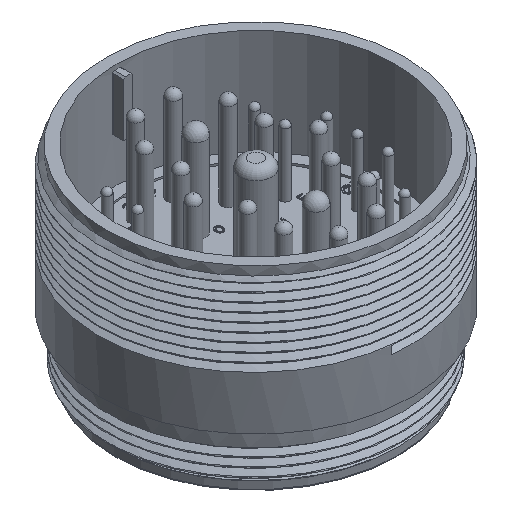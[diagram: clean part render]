
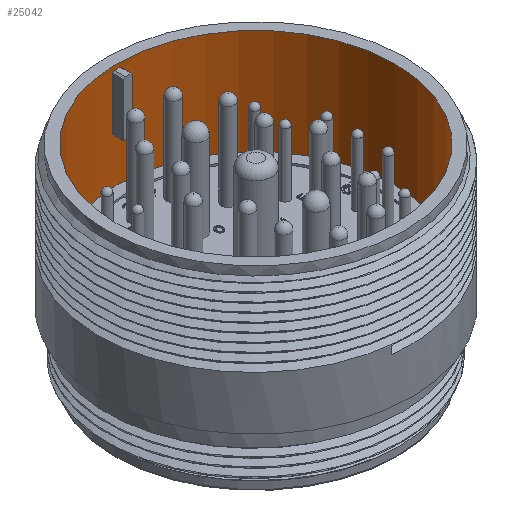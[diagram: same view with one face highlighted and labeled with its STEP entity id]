
A CAD part, isometric view. The second image highlights one B-rep face of the part: STEP entity #25042.
In plain terms, the highlighted cylindrical face has radius 25.34 mm (diameter 50.68 mm), a full revolution.
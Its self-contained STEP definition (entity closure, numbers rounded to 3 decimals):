
#410 = CARTESIAN_POINT ( 'NONE',  ( 0.525, 25.335, -0.8 ) ) ;
#3067 = VERTEX_POINT ( 'NONE', #50259 ) ;
#4799 = AXIS2_PLACEMENT_3D ( 'NONE', #45327, #32895, #32375 ) ;
#5628 = CARTESIAN_POINT ( 'NONE',  ( 0.929, 25.323, 22.455 ) ) ;
#5750 = ORIENTED_EDGE ( 'NONE', *, *, #9953, .T. ) ;
#5782 = CARTESIAN_POINT ( 'NONE',  ( 0., 0., -19.18 ) ) ;
#7806 = CIRCLE ( 'NONE', #52864, 25.34 ) ;
#8177 = CARTESIAN_POINT ( 'NONE',  ( 0., 0., -10.8 ) ) ;
#9026 = CARTESIAN_POINT ( 'NONE',  ( -0.525, 25.335, -0.8 ) ) ;
#9321 = EDGE_LOOP ( 'NONE', ( #57708, #57931, #50783, #31379, #33815, #25535 ) ) ;
#9953 = EDGE_CURVE ( 'NONE', #65798, #65798, #25247, .T. ) ;
#10475 = CARTESIAN_POINT ( 'NONE',  ( -0.525, 25.335, -0.8 ) ) ;
#14609 = CARTESIAN_POINT ( 'NONE',  ( -0.929, 25.323, -1.204 ) ) ;
#16835 = LINE ( 'NONE', #5628, #33873 ) ;
#18004 = EDGE_CURVE ( 'NONE', #74257, #77186, #7806, .T. ) ;
#22920 = EDGE_CURVE ( 'NONE', #63780, #3067, #71121, .T. ) ;
#25042 = ADVANCED_FACE ( 'NONE', ( #56858, #58729, #66275 ), #43655, .F. ) ;
#25247 = CIRCLE ( 'NONE', #52654, 25.34 ) ;
#25404 =( BOUNDED_CURVE ( )  B_SPLINE_CURVE ( 3, ( #410, #42687, #65933, #71982 ),
 .UNSPECIFIED., .F., .F. ) 
 B_SPLINE_CURVE_WITH_KNOTS ( ( 4, 4 ),
 ( 1.592, 1.607 ),
 .UNSPECIFIED. ) 
 CURVE ( )  GEOMETRIC_REPRESENTATION_ITEM ( )  RATIONAL_B_SPLINE_CURVE ( ( 1., 1., 1., 1. ) ) 
 REPRESENTATION_ITEM ( '' )  );
#25535 = ORIENTED_EDGE ( 'NONE', *, *, #22920, .T. ) ;
#26256 = CARTESIAN_POINT ( 'NONE',  ( -0.929, 25.323, -1.204 ) ) ;
#27542 = CARTESIAN_POINT ( 'NONE',  ( 0., 0., -0.8 ) ) ;
#28266 = CARTESIAN_POINT ( 'NONE',  ( 0.929, 25.323, -10.8 ) ) ;
#29751 = EDGE_LOOP ( 'NONE', ( #5750 ) ) ;
#31379 = ORIENTED_EDGE ( 'NONE', *, *, #74784, .T. ) ;
#32375 = DIRECTION ( 'NONE',  ( 1., 0., 0. ) ) ;
#32895 = DIRECTION ( 'NONE',  ( 0., 0., 1. ) ) ;
#33586 = DIRECTION ( 'NONE',  ( 0., 0., 1. ) ) ;
#33815 = ORIENTED_EDGE ( 'NONE', *, *, #51316, .T. ) ;
#33873 = VECTOR ( 'NONE', #66936, 1000. ) ;
#34137 = CARTESIAN_POINT ( 'NONE',  ( 0.929, 25.323, -1.204 ) ) ;
#34976 = DIRECTION ( 'NONE',  ( 0., 0., 1. ) ) ;
#35148 = DIRECTION ( 'NONE',  ( 1., 0., 0. ) ) ;
#37100 = VERTEX_POINT ( 'NONE', #34137 ) ;
#42687 = CARTESIAN_POINT ( 'NONE',  ( 0.66, 25.332, -0.935 ) ) ;
#43655 = CYLINDRICAL_SURFACE ( 'NONE', #4799, 25.34 ) ;
#44265 =( BOUNDED_CURVE ( )  B_SPLINE_CURVE ( 3, ( #14609, #68680, #51536, #9026 ),
 .UNSPECIFIED., .F., .T. ) 
 B_SPLINE_CURVE_WITH_KNOTS ( ( 4, 4 ),
 ( 4.676, 4.692 ),
 .UNSPECIFIED. ) 
 CURVE ( )  GEOMETRIC_REPRESENTATION_ITEM ( )  RATIONAL_B_SPLINE_CURVE ( ( 1., 1., 1., 1. ) ) 
 REPRESENTATION_ITEM ( '' )  );
#45327 = CARTESIAN_POINT ( 'NONE',  ( 0., 0., 22.455 ) ) ;
#47058 = DIRECTION ( 'NONE',  ( 0., 0., 1. ) ) ;
#47761 = EDGE_LOOP ( 'NONE', ( #76719 ) ) ;
#47889 = CARTESIAN_POINT ( 'NONE',  ( 0., 0., 0. ) ) ;
#48410 = CARTESIAN_POINT ( 'NONE',  ( 0.525, 25.335, -0.8 ) ) ;
#50259 = CARTESIAN_POINT ( 'NONE',  ( -0.929, 25.323, -10.8 ) ) ;
#50414 = DIRECTION ( 'NONE',  ( 1., 0., 0. ) ) ;
#50505 = VERTEX_POINT ( 'NONE', #26256 ) ;
#50783 = ORIENTED_EDGE ( 'NONE', *, *, #18004, .F. ) ;
#51316 = EDGE_CURVE ( 'NONE', #37100, #63780, #16835, .T. ) ;
#51536 = CARTESIAN_POINT ( 'NONE',  ( -0.66, 25.332, -0.935 ) ) ;
#52104 = LINE ( 'NONE', #74396, #65250 ) ;
#52654 = AXIS2_PLACEMENT_3D ( 'NONE', #47889, #34976, #53197 ) ;
#52864 = AXIS2_PLACEMENT_3D ( 'NONE', #27542, #33586, #75029 ) ;
#53197 = DIRECTION ( 'NONE',  ( 1., 0., 0. ) ) ;
#55486 = EDGE_CURVE ( 'NONE', #68555, #68555, #57966, .T. ) ;
#55987 = DIRECTION ( 'NONE',  ( 0., 0., 1. ) ) ;
#56858 = FACE_OUTER_BOUND ( 'NONE', #29751, .T. ) ;
#57708 = ORIENTED_EDGE ( 'NONE', *, *, #70186, .T. ) ;
#57931 = ORIENTED_EDGE ( 'NONE', *, *, #62550, .T. ) ;
#57966 = CIRCLE ( 'NONE', #76206, 25.34 ) ;
#58729 = FACE_OUTER_BOUND ( 'NONE', #47761, .T. ) ;
#60941 = AXIS2_PLACEMENT_3D ( 'NONE', #8177, #55987, #50414 ) ;
#62550 = EDGE_CURVE ( 'NONE', #50505, #77186, #44265, .T. ) ;
#63780 = VERTEX_POINT ( 'NONE', #28266 ) ;
#65250 = VECTOR ( 'NONE', #67547, 1000. ) ;
#65798 = VERTEX_POINT ( 'NONE', #66597 ) ;
#65933 = CARTESIAN_POINT ( 'NONE',  ( 0.794, 25.328, -1.069 ) ) ;
#66275 = FACE_BOUND ( 'NONE', #9321, .T. ) ;
#66597 = CARTESIAN_POINT ( 'NONE',  ( 25.34, 0., 0. ) ) ;
#66936 = DIRECTION ( 'NONE',  ( 0., 0., -1. ) ) ;
#67547 = DIRECTION ( 'NONE',  ( 0., 0., 1. ) ) ;
#68555 = VERTEX_POINT ( 'NONE', #75332 ) ;
#68680 = CARTESIAN_POINT ( 'NONE',  ( -0.794, 25.328, -1.069 ) ) ;
#70186 = EDGE_CURVE ( 'NONE', #3067, #50505, #52104, .T. ) ;
#71121 = CIRCLE ( 'NONE', #60941, 25.34 ) ;
#71982 = CARTESIAN_POINT ( 'NONE',  ( 0.929, 25.323, -1.204 ) ) ;
#74257 = VERTEX_POINT ( 'NONE', #48410 ) ;
#74396 = CARTESIAN_POINT ( 'NONE',  ( -0.929, 25.323, 22.455 ) ) ;
#74784 = EDGE_CURVE ( 'NONE', #74257, #37100, #25404, .T. ) ;
#75029 = DIRECTION ( 'NONE',  ( 1., 0., 0. ) ) ;
#75332 = CARTESIAN_POINT ( 'NONE',  ( 25.34, 0., -19.18 ) ) ;
#76206 = AXIS2_PLACEMENT_3D ( 'NONE', #5782, #47058, #35148 ) ;
#76719 = ORIENTED_EDGE ( 'NONE', *, *, #55486, .F. ) ;
#77186 = VERTEX_POINT ( 'NONE', #10475 ) ;
